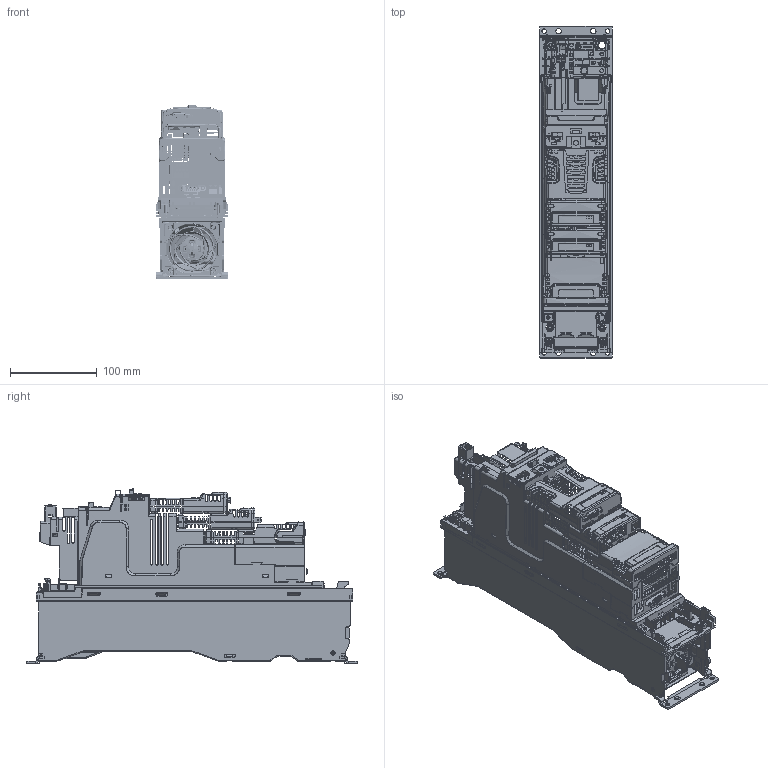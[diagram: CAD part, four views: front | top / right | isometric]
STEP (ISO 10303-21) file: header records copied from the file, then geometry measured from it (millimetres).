
FILE_DESCRIPTION((''),'2;1');
FILE_NAME('UNIM03_WITH_NO_COVERS','2013-09-03T',('lewisi02'),(''),'PRO/ENGINEER BY PARAMETRIC TECHNOLOGY CORPORATION, 2011490','PRO/ENGINEER BY PARAMETRIC TECHNOLOGY CORPORATION, 2011490','');
FILE_SCHEMA(('CONFIG_CONTROL_DESIGN'));
Products named in the file (1): UNIM03_WITH_NO_COVERS
Bounding box: 83.2 x 382 x 200.9 mm (x, y, z)
Surface area: 378101 mm2 (no closed solid volume)
Topology: 0 solids, 647 shells, 2441 faces, 17977 edges, 15930 vertices
Faces by surface type: plane 1192, cylinder 593, bspline 280, cone 213, torus 163
Entity records: 195405 total; most frequent: CARTESIAN_POINT 75641, ORIENTED_EDGE 20693, DIRECTION 20620, EDGE_CURVE 17973, VERTEX_POINT 15930, VECTOR 10854, LINE 10854, AXIS2_PLACEMENT_3D 4883
